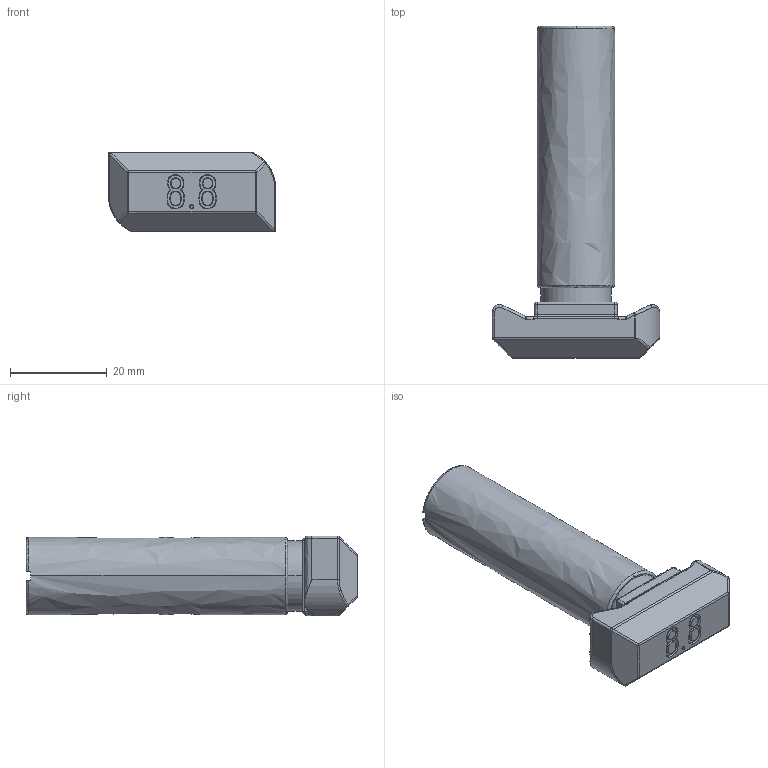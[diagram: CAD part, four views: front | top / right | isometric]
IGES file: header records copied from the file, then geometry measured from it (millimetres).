
Start section: 3D InterOp IGES (v. 2019 1.0.2), Spatial Corp. Copyright (c) 1999-2017.
Global section: file name: TPH1660.igs; native system: Spatial Corp.; preprocessor: 3D InterOp GENERIC/IGES 3.0; author: Noname; organization: Noname; date: 20210225.084331; units: millimetre
Bounding box: 34.5 x 68.5 x 16.5 mm (x, y, z)
Surface area: 4890 mm2 (no closed solid volume)
Topology: 0 solids, 0 shells, 179 faces, 947 edges, 936 vertices
Faces by surface type: bspline 83, revolution 64, extrusion 32
